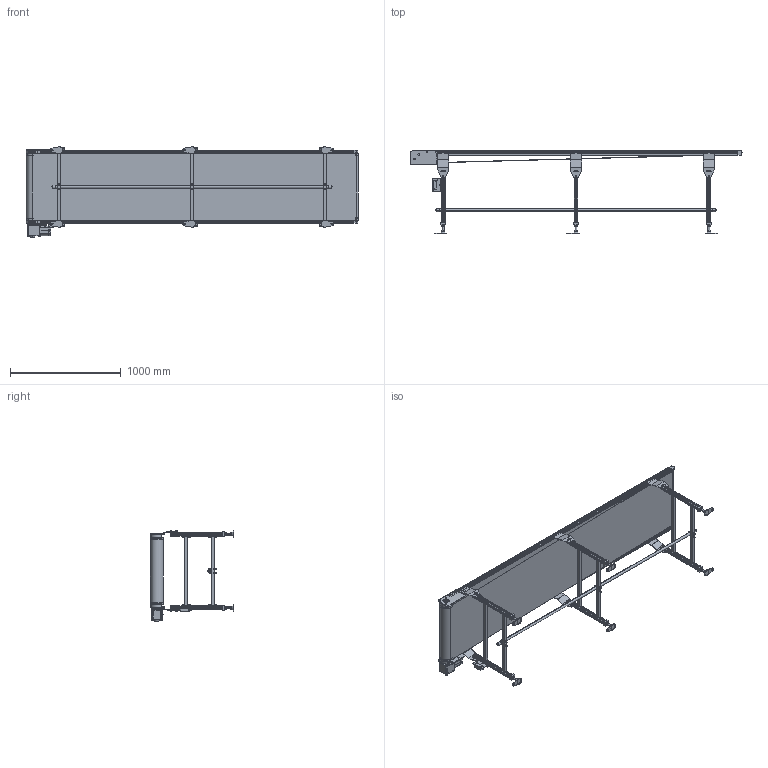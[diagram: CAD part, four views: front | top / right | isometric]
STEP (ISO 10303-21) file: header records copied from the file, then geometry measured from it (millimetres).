
FILE_DESCRIPTION( (''), '2;1');
FILE_NAME ('MB23-HS-309-600-300-R-K-100-O.stp','2025-02-17T10:54:38',(''),(''),'spGate 20.6.2 (****-****-****-****)','','');
FILE_SCHEMA (('AUTOMOTIVE_DESIGN'));
Length unit declared in the file: millimetre
Products named in the file (57): NewModel; MB23-HS-600-3000-R; TEMP_X_T-prt0; TEMP_X_T-prt1; TEMP_X_T-prt2; TEMP_X_T-prt3; TEMP_X_T-prt4; TEMP_X_T-prt5; TEMP_X_T-prt6; TEMP_X_T-prt7; TEMP_X_T-prt8; TEMP_X_T-prt9; TEMP_X_T-prt10; TEMP_X_T-prt11; TEMP_X_T-prt12; TEMP_X_T-prt13; TEMP_X_T-prt14; TEMP_X_T-prt15; TEMP_X_T-prt16; TEMP_X_T-prt17; TEMP_X_T-prt18; TEMP_X_T-prt19; TEMP_X_T-prt20; TEMP_X_T-prt21; TEMP_X_T-prt22; TEMP_X_T-prt23; TEMP_X_T-prt24; TEMP_X_T-prt25; TEMP_X_T-prt26; TEMP_X_T-prt27; TEMP_X_T-prt28; TEMP_X_T-prt29; TEMP_X_T-prt30; TEMP_X_T-prt31; TEMP_X_T-prt32; TEMP_X_T-prt33; TEMP_X_T-prt34; TEMP_X_T-prt35; TEMP_X_T-prt36; TEMP_X_T-prt37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
Assembly tree (56 placements, depth 3):
  NewModel
    MB23-HS-600-3000-R
      TEMP_X_T-prt0
      TEMP_X_T-prt1
      TEMP_X_T-prt2
      TEMP_X_T-prt3
      TEMP_X_T-prt4
      TEMP_X_T-prt5
      TEMP_X_T-prt6
      TEMP_X_T-prt7
      TEMP_X_T-prt8
      TEMP_X_T-prt9
      TEMP_X_T-prt10
      TEMP_X_T-prt11
      TEMP_X_T-prt12
      TEMP_X_T-prt13
      TEMP_X_T-prt14
      TEMP_X_T-prt15
      TEMP_X_T-prt16
      TEMP_X_T-prt17
      TEMP_X_T-prt18
      TEMP_X_T-prt19
      TEMP_X_T-prt20
      TEMP_X_T-prt21
      TEMP_X_T-prt22
      TEMP_X_T-prt23
      TEMP_X_T-prt24
      TEMP_X_T-prt25
      TEMP_X_T-prt26
      TEMP_X_T-prt27
      TEMP_X_T-prt28
      TEMP_X_T-prt29
      TEMP_X_T-prt30
      TEMP_X_T-prt31
      TEMP_X_T-prt32
      TEMP_X_T-prt33
      TEMP_X_T-prt34
      TEMP_X_T-prt35
      TEMP_X_T-prt36
      TEMP_X_T-prt37
      TEMP_X_T-prt38
      TEMP_X_T-prt39
      TEMP_X_T-prt40
      TEMP_X_T-prt41
      TEMP_X_T-prt42
      TEMP_X_T-prt43
      TEMP_X_T-prt44
      TEMP_X_T-prt45
      TEMP_X_T-prt46
      TEMP_X_T-prt47
      TEMP_X_T-prt48
      TEMP_X_T-prt49
      TEMP_X_T-prt50
      TEMP_X_T-prt51
      TEMP_X_T-prt52
      TEMP_X_T-prt53
      TEMP_X_T-prt54
Bounding box: 3001.41 x 752.7 x 818 mm (x, y, z)
Volume: 26251690.8 mm3; surface area: 14645081.5 mm2
Topology: 55 solids, 55 shells, 2770 faces, 7015 edges, 4558 vertices
Faces by surface type: plane 1915, cylinder 717, bspline 130, sphere 8
Entity records: 143635 total; most frequent: CARTESIAN_POINT 19114, ORIENTED_EDGE 13990, DIRECTION 13455, COLOUR_RGB 9820, PRESENTATION_STYLE_ASSIGNMENT 9820, STYLED_ITEM 9820, EDGE_CURVE 6995, DRAUGHTING_PRE_DEFINED_CURVE_FONT 6995
